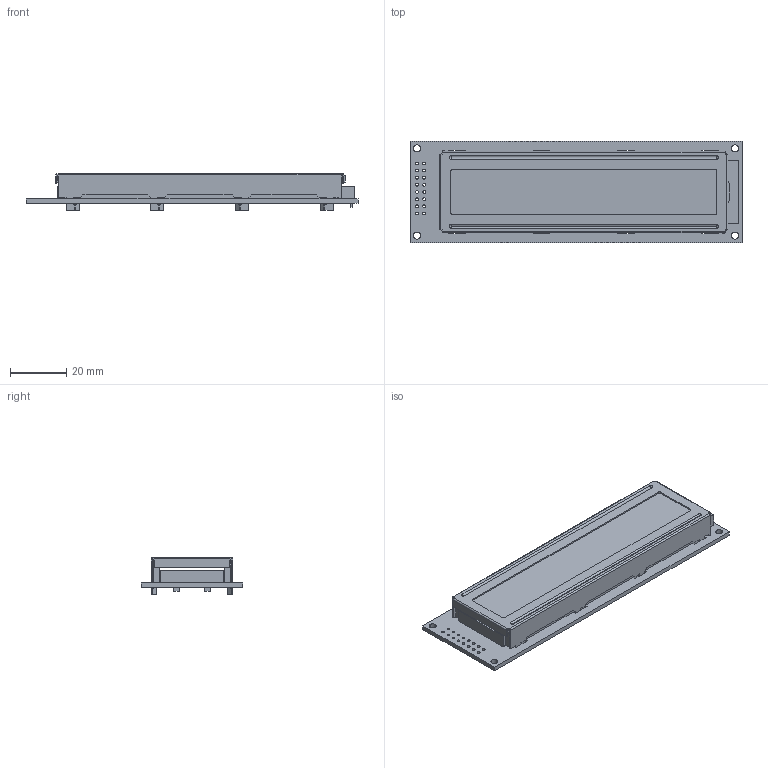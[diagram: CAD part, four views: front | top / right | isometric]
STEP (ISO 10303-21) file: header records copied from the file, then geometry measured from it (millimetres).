
FILE_DESCRIPTION (( 'STEP AP214' ), '1' );
FILE_NAME ('WH2402A-T.STEP', '2021-11-11T17:18:49', ( '' ), ( '' ), 'SwSTEP 2.0', 'SolidWorks 2019', '' );
FILE_SCHEMA (( 'AUTOMOTIVE_DESIGN' ));
Length unit declared in the file: millimetre
Products named in the file (1): WH2402A-T
Bounding box: 118 x 36 x 13.1 mm (x, y, z)
Volume: 29220.8 mm3; surface area: 22859.2 mm2
Topology: 1 solids, 1 shells, 353 faces, 1051 edges, 682 vertices
Faces by surface type: plane 234, cylinder 115, bspline 4
Entity records: 13905 total; most frequent: CARTESIAN_POINT 2199, ORIENTED_EDGE 2102, DIRECTION 1993, EDGE_CURVE 1051, VECTOR 801, LINE 801, VERTEX_POINT 682, AXIS2_PLACEMENT_3D 596
